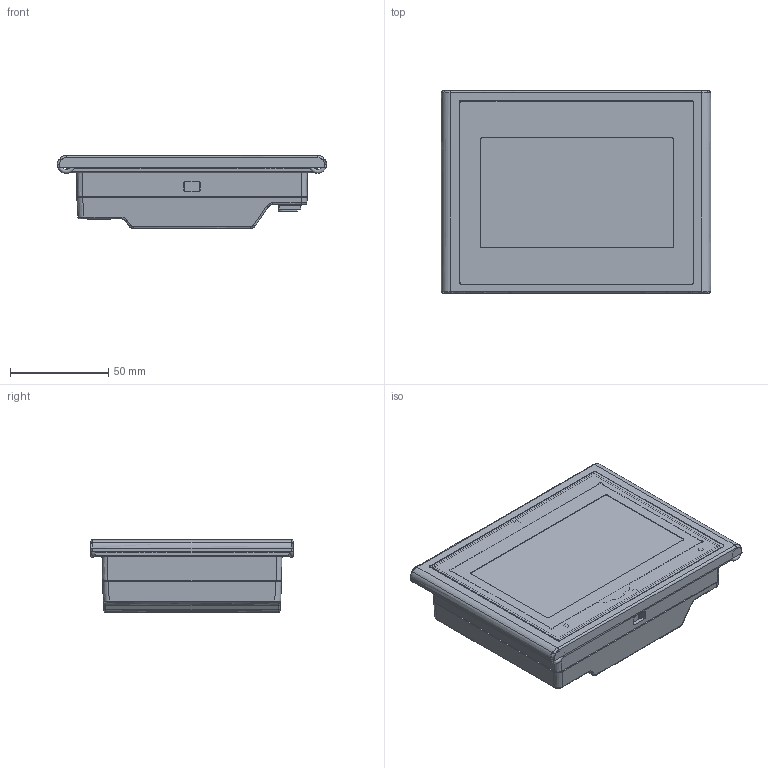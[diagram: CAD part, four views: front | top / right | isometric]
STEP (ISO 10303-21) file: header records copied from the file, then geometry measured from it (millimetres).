
FILE_DESCRIPTION((''),'2;1');
FILE_NAME('DOP-103_ASM_ASM_ASM','2016-08-10T',('YY.CHENG'),(''),'PRO/ENGINEER BY PARAMETRIC TECHNOLOGY CORPORATION, 2015200','PRO/ENGINEER BY PARAMETRIC TECHNOLOGY CORPORATION, 2015200','');
FILE_SCHEMA(('CONFIG_CONTROL_DESIGN'));
Products named in the file (2): _DOP-103_ASM_ASM; DOP-103_ASM_ASM_ASM
Assembly tree (1 placements, depth 2):
  DOP-103_ASM_ASM_ASM
    _DOP-103_ASM_ASM
Bounding box: 137 x 103.07 x 37.1 mm (x, y, z)
Surface area: 106901 mm2 (no closed solid volume)
Topology: 0 solids, 0 shells, 2738 faces, 15118 edges, 15058 vertices
Faces by surface type: bspline 2634, torus 94, sphere 10
Entity records: 230056 total; most frequent: CARTESIAN_POINT 95683, DIRECTION 20330, TRIMMED_CURVE 19068, VECTOR 18020, LINE 18020, DEFINITIONAL_REPRESENTATION 14990, PCURVE 14990, COMPOSITE_CURVE_SEGMENT 14990
